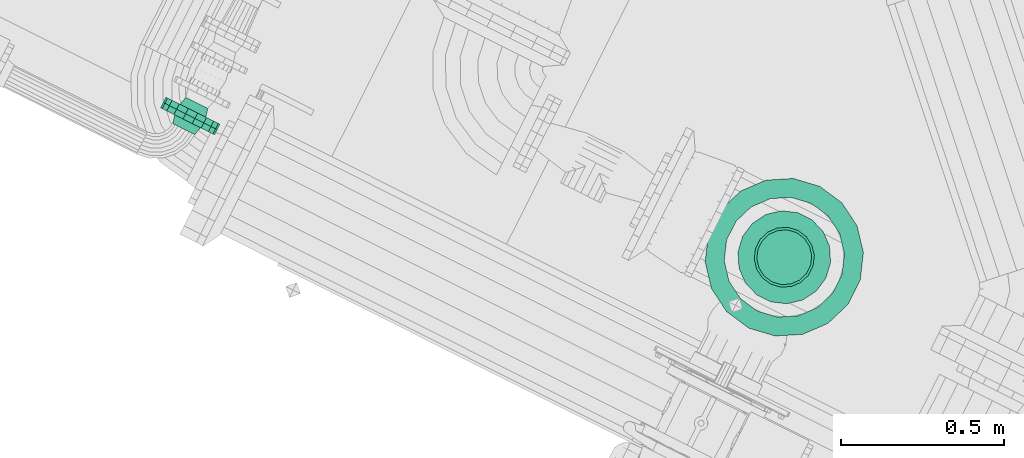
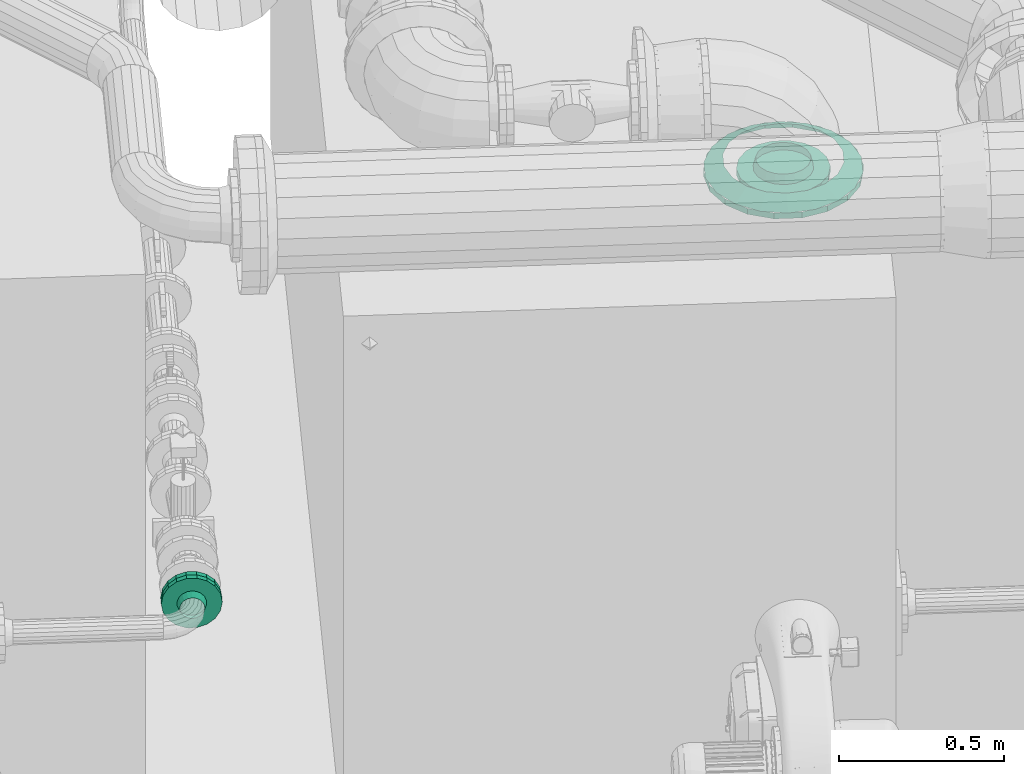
# One storey, part 46 of 206: 3 flow fittings.
"""IFC2X3 building model written with IfcOpenShell, lengths in metres."""

from ifc_helpers import new_model, si_unit, derived_unit, direction, frame, origin, place, context, subcontext, project, spatial, face_set, surface_model, source, transform, mapped, material, type_object, type_shapes, element, save


model = new_model("IFC2X3")

# Units and contexts
model_context = context("Model", 3, precision=5.2338327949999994e-05, world=origin(), true_north=direction((0.0, 1.0)))
body_context = subcontext(model_context, "Body", "Model", "MODEL_VIEW")
ifc_project = project(units=[si_unit("LENGTHUNIT", "METRE"), si_unit("AREAUNIT", "SQUARE_METRE"), si_unit("VOLUMEUNIT", "CUBIC_METRE"), si_unit("MASSUNIT", "GRAM", prefix="KILO"), si_unit("PLANEANGLEUNIT", "RADIAN"), derived_unit("THERMALTRANSMITTANCEUNIT", [(si_unit("MASSUNIT", "GRAM", prefix="KILO"), 1), (si_unit("THERMODYNAMICTEMPERATUREUNIT", "KELVIN"), -1), (si_unit("TIMEUNIT", "SECOND"), -3)])], contexts=[model_context])

# Site, building, storey
site_placement = place(None, frame((0.0, 0.0, 0.0), z_axis=(0.0, 0.0, 1.0), x_axis=(0.8939966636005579, -0.4480736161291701, 0.0)))
site = spatial("IfcSite", under=ifc_project, at=site_placement, Name="Default", CompositionType="ELEMENT")
building_placement = place(site_placement, origin())
building = spatial("IfcBuilding", under=site, at=building_placement, CompositionType="ELEMENT")
storey_placement = place(building_placement, origin())
storey = spatial("IfcBuildingStorey", under=building, at=storey_placement, Name="Erdgeschoss", CompositionType="ELEMENT", Elevation=0.0)

# Flow fittings
ifc_material_1 = material(Name="IfcSurfaceStyle #1741")
distribution_element_type_1 = type_object("IfcDistributionElementType", Name="Flansch 317675:Flansch 317675", material=ifc_material_1)
shared_shape_1 = source(origin(), body_context, "Body", "SurfaceModel", [
    surface_model("IfcFaceBasedSurfaceModel", [(24.032321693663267, 5.395961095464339, 2.07), (24.040915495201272, 5.347223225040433, 2.07), (24.040915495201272, 5.347223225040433, 2.0919999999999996), (24.032321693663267, 5.395961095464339, 2.0919999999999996), (24.065660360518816, 5.304363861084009, 2.07), (24.065660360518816, 5.304363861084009, 2.0919999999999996), (24.103571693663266, 5.272552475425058, 2.07), (24.103571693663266, 5.272552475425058, 2.0919999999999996), (24.15007682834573, 5.255625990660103, 2.07), (24.15007682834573, 5.255625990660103, 2.0919999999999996), (24.199566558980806, 5.255625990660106, 2.07), (24.199566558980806, 5.255625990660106, 2.0919999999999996), (24.246071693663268, 5.272552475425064, 2.07), (24.246071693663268, 5.272552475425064, 2.0919999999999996), (24.283983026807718, 5.304363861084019, 2.07), (24.283983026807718, 5.304363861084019, 2.0919999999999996), (24.30872789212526, 5.347223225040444, 2.07), (24.30872789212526, 5.347223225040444, 2.0919999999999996), (24.31732169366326, 5.395961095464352, 2.07), (24.31732169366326, 5.395961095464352, 2.0919999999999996), (24.30872789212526, 5.444698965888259, 2.07), (24.30872789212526, 5.444698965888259, 2.0919999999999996), (24.283983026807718, 5.487558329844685, 2.07), (24.283983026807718, 5.487558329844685, 2.0919999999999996), (24.246071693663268, 5.519369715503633, 2.07), (24.246071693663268, 5.519369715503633, 2.0919999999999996), (24.199566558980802, 5.536296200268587, 2.07), (24.199566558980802, 5.536296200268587, 2.0919999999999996), (24.15007682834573, 5.536296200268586, 2.07), (24.15007682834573, 5.536296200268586, 2.0919999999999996), (24.103571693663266, 5.519369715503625, 2.07), (24.103571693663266, 5.519369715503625, 2.0919999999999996), (24.065660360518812, 5.487558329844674, 2.07), (24.065660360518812, 5.487558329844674, 2.0919999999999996), (24.04091549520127, 5.444698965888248, 2.07), (24.04091549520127, 5.444698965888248, 2.0919999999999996), (24.17482169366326, 5.3959610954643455, 2.091999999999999), (24.17482169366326, 5.303961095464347, 2.0919999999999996), (24.206287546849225, 5.309509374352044, 2.0919999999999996), (24.20360268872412, 5.316885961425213, 2.125), (24.17482169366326, 5.311811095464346, 2.125), (24.23395815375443, 5.325485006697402, 2.0919999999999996), (24.228912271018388, 5.331498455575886, 2.125), (24.254496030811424, 5.3499610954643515, 2.0919999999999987), (24.247697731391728, 5.35388609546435, 2.124999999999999), (24.265424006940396, 5.37998546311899, 2.0920000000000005), (24.257693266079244, 5.381348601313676, 2.125000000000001), (24.265424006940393, 5.411936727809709, 2.091999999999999), (24.257693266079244, 5.410573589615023, 2.1249999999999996), (24.25449603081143, 5.44196109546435, 2.0919999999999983), (24.247697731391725, 5.438036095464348, 2.1249999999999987), (24.233958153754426, 5.466437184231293, 2.0919999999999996), (24.228912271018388, 5.460423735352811, 2.125), (24.206287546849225, 5.482412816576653, 2.0919999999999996), (24.20360268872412, 5.475036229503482, 2.125), (24.17482169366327, 5.487961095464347, 2.0919999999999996), (24.17482169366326, 5.480111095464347, 2.125), (24.143355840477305, 5.482412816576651, 2.0919999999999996), (24.14604069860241, 5.4750362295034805, 2.125), (24.1156852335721, 5.466437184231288, 2.0919999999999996), (24.120731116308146, 5.460423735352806, 2.125), (24.095147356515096, 5.441961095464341, 2.0919999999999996), (24.101945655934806, 5.438036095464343, 2.125), (24.084219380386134, 5.4119367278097, 2.0919999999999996), (24.091950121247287, 5.410573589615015, 2.125), (24.084219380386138, 5.379985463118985, 2.091999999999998), (24.091950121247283, 5.38134860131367, 2.1249999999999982), (24.095147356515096, 5.349961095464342, 2.0919999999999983), (24.101945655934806, 5.353886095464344, 2.1249999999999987), (24.1156852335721, 5.325485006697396, 2.0920000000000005), (24.120731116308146, 5.331498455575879, 2.125000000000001), (24.143355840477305, 5.309509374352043, 2.091999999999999), (24.146040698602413, 5.316885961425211, 2.1249999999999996), (23.932321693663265, 5.395961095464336, 2.07), (23.94694623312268, 5.313021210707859, 2.07), (23.94694623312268, 5.313021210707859, 2.0919999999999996), (23.932321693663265, 5.395961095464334, 2.0919999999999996), (23.989055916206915, 5.24008510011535, 2.07), (23.989055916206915, 5.24008510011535, 2.0919999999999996), (24.05357169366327, 5.185949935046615, 2.07), (24.05357169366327, 5.185949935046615, 2.0919999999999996), (24.132712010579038, 5.1571452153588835, 2.07), (24.132712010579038, 5.1571452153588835, 2.0919999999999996), (24.216931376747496, 5.157145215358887, 2.07), (24.216931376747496, 5.157145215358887, 2.0919999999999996), (24.29607169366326, 5.185949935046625, 2.07), (24.29607169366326, 5.185949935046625, 2.0919999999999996), (24.36058747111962, 5.240085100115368, 2.07), (24.36058747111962, 5.240085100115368, 2.0919999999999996), (24.40269715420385, 5.313021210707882, 2.07), (24.40269715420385, 5.313021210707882, 2.0919999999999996), (24.417321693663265, 5.395961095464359, 2.07), (24.417321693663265, 5.395961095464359, 2.0919999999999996), (24.40269715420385, 5.478900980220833, 2.07), (24.40269715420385, 5.478900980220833, 2.0919999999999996), (24.36058747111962, 5.5518370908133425, 2.07), (24.36058747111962, 5.5518370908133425, 2.0919999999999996), (24.29607169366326, 5.60597225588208, 2.07), (24.29607169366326, 5.60597225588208, 2.0919999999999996), (24.216931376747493, 5.63477697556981, 2.07), (24.216931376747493, 5.63477697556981, 2.0919999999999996), (24.132712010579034, 5.634776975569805, 2.07), (24.132712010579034, 5.634776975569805, 2.0919999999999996), (24.053571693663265, 5.60597225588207, 2.07), (24.053571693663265, 5.60597225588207, 2.0919999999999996), (23.98905591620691, 5.551837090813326, 2.07), (23.98905591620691, 5.551837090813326, 2.0919999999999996), (23.94694623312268, 5.47890098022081, 2.07), (23.94694623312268, 5.47890098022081, 2.0919999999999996), (24.17482169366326, 5.153461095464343, 2.0920000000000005), (24.257761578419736, 5.168085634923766, 2.0920000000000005), (24.23780470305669, 5.222916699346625, 2.125000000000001), (24.17482169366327, 5.211811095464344, 2.1249999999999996), (24.33069768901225, 5.210195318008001, 2.0919999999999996), (24.29319103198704, 5.254894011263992, 2.125), (24.38483285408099, 5.274711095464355, 2.092), (24.334300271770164, 5.303886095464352, 2.1250000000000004), (24.413637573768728, 5.353851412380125, 2.092), (24.356174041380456, 5.363983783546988, 2.1250000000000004), (24.41363757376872, 5.438070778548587, 2.0919999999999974), (24.356174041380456, 5.4279384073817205, 2.124999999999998), (24.38483285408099, 5.517211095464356, 2.092), (24.334300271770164, 5.488036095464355, 2.1250000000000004), (24.33069768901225, 5.581726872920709, 2.092), (24.29319103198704, 5.537028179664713, 2.1250000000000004), (24.257761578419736, 5.6238365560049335, 2.0919999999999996), (24.237804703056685, 5.5690054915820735, 2.125), (24.17482169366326, 5.638461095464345, 2.0919999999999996), (24.17482169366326, 5.580111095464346, 2.125), (24.091881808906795, 5.623836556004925, 2.0919999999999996), (24.111838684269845, 5.569005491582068, 2.125), (24.01894569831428, 5.581726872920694, 2.0919999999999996), (24.056452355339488, 5.537028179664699, 2.125), (23.96481053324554, 5.517211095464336, 2.091999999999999), (24.015343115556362, 5.48803609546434, 2.1249999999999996), (23.936005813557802, 5.438070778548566, 2.091999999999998), (23.993469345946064, 5.427938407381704, 2.1249999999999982), (23.936005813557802, 5.353851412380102, 2.0919999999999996), (23.993469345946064, 5.36398378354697, 2.125), (23.96481053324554, 5.274711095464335, 2.091999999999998), (24.015343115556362, 5.303886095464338, 2.1249999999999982), (24.018945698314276, 5.210195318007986, 2.0919999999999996), (24.05645235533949, 5.254894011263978, 2.125), (24.091881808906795, 5.168085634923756, 2.0919999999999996), (24.111838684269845, 5.222916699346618, 2.125)], [face_set([[[0, 1, 2, 3]], [[1, 4, 5, 2]], [[4, 6, 7, 5]], [[6, 8, 9, 7]], [[8, 10, 11, 9]], [[10, 12, 13, 11]], [[12, 14, 15, 13]], [[14, 16, 17, 15]], [[16, 18, 19, 17]], [[18, 20, 21, 19]], [[20, 22, 23, 21]], [[22, 24, 25, 23]], [[24, 26, 27, 25]], [[26, 28, 29, 27]], [[28, 30, 31, 29]], [[30, 32, 33, 31]], [[32, 34, 35, 33]], [[34, 0, 3, 35]], [[36, 35, 3]], [[36, 33, 35]], [[36, 31, 33]], [[36, 29, 31]], [[36, 27, 29]], [[36, 25, 27]], [[36, 23, 25]], [[36, 21, 23]], [[36, 19, 21]], [[36, 17, 19]], [[36, 15, 17]], [[36, 13, 15]], [[36, 11, 13]], [[36, 9, 11]], [[36, 7, 9]], [[36, 5, 7]], [[36, 2, 5]], [[36, 3, 2]], [[37, 38, 39, 40]], [[38, 41, 42, 39]], [[41, 43, 44, 42]], [[43, 45, 46, 44]], [[45, 47, 48, 46]], [[47, 49, 50, 48]], [[49, 51, 52, 50]], [[51, 53, 54, 52]], [[53, 55, 56, 54]], [[55, 57, 58, 56]], [[57, 59, 60, 58]], [[59, 61, 62, 60]], [[61, 63, 64, 62]], [[63, 65, 66, 64]], [[65, 67, 68, 66]], [[67, 69, 70, 68]], [[69, 71, 72, 70]], [[71, 37, 40, 72]], [[73, 74, 75, 76]], [[74, 77, 78, 75]], [[77, 79, 80, 78]], [[79, 81, 82, 80]], [[81, 83, 84, 82]], [[83, 85, 86, 84]], [[85, 87, 88, 86]], [[87, 89, 90, 88]], [[89, 91, 92, 90]], [[91, 93, 94, 92]], [[93, 95, 96, 94]], [[95, 97, 98, 96]], [[97, 99, 100, 98]], [[99, 101, 102, 100]], [[101, 103, 104, 102]], [[103, 105, 106, 104]], [[105, 107, 108, 106]], [[107, 73, 76, 108]], [[109, 110, 111, 112]], [[110, 113, 114, 111]], [[113, 115, 116, 114]], [[115, 117, 118, 116]], [[117, 119, 120, 118]], [[119, 121, 122, 120]], [[121, 123, 124, 122]], [[123, 125, 126, 124]], [[125, 127, 128, 126]], [[127, 129, 130, 128]], [[129, 131, 132, 130]], [[131, 133, 134, 132]], [[133, 135, 136, 134]], [[135, 137, 138, 136]], [[137, 139, 140, 138]], [[139, 141, 142, 140]], [[141, 143, 144, 142]], [[143, 109, 112, 144]]])]),
])
type_shapes(distribution_element_type_1, [shared_shape_1])
flow_fitting_1_placement = place(storey_placement, origin())
element("IfcFlowFitting", 1, at=flow_fitting_1_placement, inside=storey, type_object=distribution_element_type_1, material=ifc_material_1, Name="Flansch", ObjectType="Flansch", context=body_context, shape_type="MappedRepresentation", body=[
    mapped(shared_shape_1, transform((0.0, 0.0, 0.0), scale=1.0)),
])
ifc_material_2 = material(Name="IfcSurfaceStyle #352577")
distribution_element_type_2 = type_object("IfcDistributionElementType", Name="Flansch 357862:Flansch 357862", material=ifc_material_2)
shared_shape_2 = source(origin(), body_context, "Body", "SurfaceModel", [
    surface_model("IfcFaceBasedSurfaceModel", [(22.356766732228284, 4.92295839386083, 0.9080499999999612), (22.36978059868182, 4.922958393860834, 0.9057553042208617), (22.372157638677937, 4.9499583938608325, 0.9122861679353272), (22.35676673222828, 4.949958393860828, 0.9149999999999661), (22.381224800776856, 4.922958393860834, 0.8991479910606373), (22.38569217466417, 4.949958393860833, 0.9044719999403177), (22.38971899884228, 4.922958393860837, 0.8890249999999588), (22.39573787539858, 4.949958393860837, 0.8924999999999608), (22.394238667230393, 4.9229583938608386, 0.876607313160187), (22.401083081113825, 4.949958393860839, 0.8778141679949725), (22.3942386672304, 4.922958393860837, 0.8633926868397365), (22.40108308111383, 4.949958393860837, 0.8621858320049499), (22.38971899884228, 4.922958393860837, 0.85097499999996), (22.39573787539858, 4.949958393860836, 0.8474999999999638), (22.38122480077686, 4.922958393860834, 0.8408520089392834), (22.38569217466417, 4.949958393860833, 0.8355280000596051), (22.369780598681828, 4.922958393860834, 0.834244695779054), (22.372157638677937, 4.949958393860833, 0.827713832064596), (22.356766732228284, 4.922958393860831, 0.8319499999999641), (22.356766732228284, 4.949958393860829, 0.8249999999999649), (22.34375286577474, 4.922958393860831, 0.8342446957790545), (22.341375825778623, 4.949958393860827, 0.8277138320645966), (22.33230866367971, 4.922958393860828, 0.8408520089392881), (22.327841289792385, 4.949958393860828, 0.8355280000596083), (22.323814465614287, 4.922958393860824, 0.8509749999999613), (22.317795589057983, 4.949958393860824, 0.8474999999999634), (22.31929479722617, 4.922958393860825, 0.8633926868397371), (22.312450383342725, 4.949958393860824, 0.862185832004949), (22.319294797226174, 4.922958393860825, 0.8766073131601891), (22.31245038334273, 4.949958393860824, 0.8778141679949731), (22.323814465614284, 4.922958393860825, 0.8890249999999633), (22.317795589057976, 4.949958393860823, 0.8924999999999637), (22.33230866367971, 4.922958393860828, 0.8991479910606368), (22.327841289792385, 4.9499583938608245, 0.9044719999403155), (22.343752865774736, 4.922958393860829, 0.9057553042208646), (22.341375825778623, 4.949958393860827, 0.9122861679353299), (22.26426673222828, 4.9499583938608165, 0.8699999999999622), (22.269845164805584, 4.949958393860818, 0.9016368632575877), (22.269845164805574, 4.967958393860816, 0.9016368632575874), (22.264266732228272, 4.967958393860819, 0.8699999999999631), (22.28590762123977, 4.949958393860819, 0.9294578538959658), (22.285907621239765, 4.96795839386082, 0.9294578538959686), (22.310516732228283, 4.949958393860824, 0.9501073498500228), (22.310516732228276, 4.967958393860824, 0.9501073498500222), (22.34070427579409, 4.949958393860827, 0.9610947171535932), (22.340704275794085, 4.967958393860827, 0.9610947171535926), (22.37282918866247, 4.949958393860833, 0.9610947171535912), (22.372829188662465, 4.967958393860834, 0.9610947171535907), (22.403016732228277, 4.949958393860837, 0.9501073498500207), (22.403016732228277, 4.967958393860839, 0.95010734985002), (22.427625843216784, 4.949958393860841, 0.9294578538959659), (22.427625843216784, 4.96795839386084, 0.9294578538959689), (22.443688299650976, 4.949958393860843, 0.9016368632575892), (22.443688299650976, 4.967958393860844, 0.901636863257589), (22.449266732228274, 4.949958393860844, 0.8699999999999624), (22.449266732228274, 4.967958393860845, 0.8699999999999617), (22.443688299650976, 4.949958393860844, 0.8383631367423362), (22.44368829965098, 4.967958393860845, 0.838363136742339), (22.427625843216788, 4.94995839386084, 0.810542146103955), (22.42762584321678, 4.96795839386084, 0.810542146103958), (22.403016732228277, 4.949958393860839, 0.7898926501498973), (22.403016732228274, 4.967958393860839, 0.7898926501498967), (22.372829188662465, 4.9499583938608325, 0.7789052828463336), (22.372829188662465, 4.967958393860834, 0.7789052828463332), (22.34070427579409, 4.949958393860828, 0.7789052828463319), (22.34070427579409, 4.96795839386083, 0.7789052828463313), (22.310516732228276, 4.949958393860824, 0.7898926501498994), (22.310516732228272, 4.967958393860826, 0.7898926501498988), (22.285907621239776, 4.949958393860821, 0.8105421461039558), (22.28590762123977, 4.967958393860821, 0.8105421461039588), (22.269845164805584, 4.949958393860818, 0.8383631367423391), (22.269845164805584, 4.967958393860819, 0.8383631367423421), (22.356766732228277, 4.949958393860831, 0.8699999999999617)], [face_set([[[0, 1, 2, 3]], [[1, 4, 5, 2]], [[4, 6, 7, 5]], [[6, 8, 9, 7]], [[8, 10, 11, 9]], [[10, 12, 13, 11]], [[12, 14, 15, 13]], [[14, 16, 17, 15]], [[16, 18, 19, 17]], [[18, 20, 21, 19]], [[20, 22, 23, 21]], [[22, 24, 25, 23]], [[24, 26, 27, 25]], [[26, 28, 29, 27]], [[28, 30, 31, 29]], [[30, 32, 33, 31]], [[32, 34, 35, 33]], [[34, 0, 3, 35]], [[36, 37, 38, 39]], [[37, 40, 41, 38]], [[40, 42, 43, 41]], [[42, 44, 45, 43]], [[44, 46, 47, 45]], [[46, 48, 49, 47]], [[48, 50, 51, 49]], [[50, 52, 53, 51]], [[52, 54, 55, 53]], [[54, 56, 57, 55]], [[56, 58, 59, 57]], [[58, 60, 61, 59]], [[60, 62, 63, 61]], [[62, 64, 65, 63]], [[64, 66, 67, 65]], [[66, 68, 69, 67]], [[68, 70, 71, 69]], [[70, 36, 39, 71]], [[72, 37, 36]], [[72, 40, 37]], [[72, 42, 40]], [[72, 44, 42]], [[72, 46, 44]], [[72, 48, 46]], [[72, 50, 48]], [[72, 52, 50]], [[72, 54, 52]], [[72, 56, 54]], [[72, 58, 56]], [[72, 60, 58]], [[72, 62, 60]], [[72, 64, 62]], [[72, 66, 64]], [[72, 68, 66]], [[72, 70, 68]], [[72, 36, 70]]])]),
])
type_shapes(distribution_element_type_2, [shared_shape_2])
flow_fitting_2_placement = place(storey_placement, origin())
element("IfcFlowFitting", 2, at=flow_fitting_2_placement, inside=storey, type_object=distribution_element_type_2, material=ifc_material_2, Name="Flansch", ObjectType="Flansch", context=body_context, shape_type="MappedRepresentation", body=[
    mapped(shared_shape_2, transform((0.0, 0.0, 0.0), scale=1.0)),
])
distribution_element_type_3 = type_object("IfcDistributionElementType", Name="Flansch 357973:Flansch 357973", material=ifc_material_2)
shared_shape_3 = source(origin(), body_context, "Body", "SurfaceModel", [
    surface_model("IfcFaceBasedSurfaceModel", [(22.356766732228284, 5.012958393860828, 0.8319499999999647), (22.36978059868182, 5.012958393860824, 0.834244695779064), (22.372157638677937, 4.985958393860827, 0.8277138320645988), (22.35676673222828, 4.985958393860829, 0.8249999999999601), (22.381224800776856, 5.012958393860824, 0.8408520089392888), (22.38569217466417, 4.985958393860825, 0.8355280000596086), (22.38971899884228, 5.012958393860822, 0.8509749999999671), (22.39573787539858, 4.985958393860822, 0.8474999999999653), (22.394238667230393, 5.012958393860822, 0.8633926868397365), (22.401083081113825, 4.985958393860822, 0.8621858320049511), (22.3942386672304, 5.012958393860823, 0.8766073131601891), (22.40108308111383, 4.985958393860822, 0.8778141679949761), (22.38971899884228, 5.012958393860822, 0.8890249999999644), (22.395737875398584, 4.985958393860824, 0.8924999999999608), (22.38122480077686, 5.012958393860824, 0.8991479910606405), (22.38569217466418, 4.985958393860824, 0.9044719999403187), (22.369780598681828, 5.012958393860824, 0.9057553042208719), (22.372157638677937, 4.985958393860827, 0.91228616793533), (22.356766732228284, 5.012958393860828, 0.908049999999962), (22.356766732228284, 4.9859583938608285, 0.9149999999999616), (22.34375286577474, 5.01295839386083, 0.9057553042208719), (22.341375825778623, 4.985958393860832, 0.91228616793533), (22.33230866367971, 5.012958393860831, 0.8991479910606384), (22.327841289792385, 4.985958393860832, 0.9044719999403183), (22.323814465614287, 5.012958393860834, 0.8890249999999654), (22.31779558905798, 4.985958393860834, 0.8924999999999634), (22.31929479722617, 5.012958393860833, 0.8766073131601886), (22.312450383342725, 4.985958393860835, 0.8778141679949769), (22.319294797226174, 5.012958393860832, 0.8633926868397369), (22.31245038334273, 4.985958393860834, 0.8621858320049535), (22.323814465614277, 5.012958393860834, 0.8509749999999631), (22.317795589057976, 4.985958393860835, 0.8474999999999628), (22.33230866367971, 5.012958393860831, 0.8408520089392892), (22.327841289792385, 4.985958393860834, 0.8355280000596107), (22.343752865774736, 5.012958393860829, 0.8342446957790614), (22.341375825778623, 4.985958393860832, 0.827713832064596), (22.26426673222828, 4.985958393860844, 0.8699999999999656), (22.269845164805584, 4.985958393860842, 0.8383631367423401), (22.269845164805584, 4.967958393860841, 0.838363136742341), (22.26426673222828, 4.967958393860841, 0.8699999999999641), (22.285907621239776, 4.985958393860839, 0.8105421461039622), (22.285907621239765, 4.9679583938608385, 0.8105421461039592), (22.310516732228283, 4.985958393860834, 0.7898926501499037), (22.310516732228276, 4.967958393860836, 0.7898926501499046), (22.34070427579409, 4.985958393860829, 0.7789052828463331), (22.340704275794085, 4.967958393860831, 0.778905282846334), (22.37282918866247, 4.985958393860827, 0.7789052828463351), (22.372829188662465, 4.967958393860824, 0.7789052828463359), (22.403016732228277, 4.985958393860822, 0.7898926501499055), (22.403016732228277, 4.96795839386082, 0.7898926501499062), (22.427625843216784, 4.985958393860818, 0.8105421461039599), (22.427625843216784, 4.967958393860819, 0.810542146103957), (22.443688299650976, 4.985958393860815, 0.8383631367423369), (22.443688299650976, 4.967958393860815, 0.8383631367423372), (22.44926673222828, 4.985958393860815, 0.8699999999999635), (22.44926673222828, 4.9679583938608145, 0.8699999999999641), (22.44368829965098, 4.985958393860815, 0.90163686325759), (22.443688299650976, 4.9679583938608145, 0.9016368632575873), (22.427625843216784, 4.985958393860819, 0.9294578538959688), (22.42762584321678, 4.967958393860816, 0.9294578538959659), (22.403016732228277, 4.985958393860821, 0.9501073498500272), (22.403016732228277, 4.967958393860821, 0.9501073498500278), (22.37282918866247, 4.985958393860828, 0.9610947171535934), (22.37282918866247, 4.967958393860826, 0.9610947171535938), (22.34070427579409, 4.985958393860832, 0.9610947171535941), (22.34070427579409, 4.9679583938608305, 0.9610947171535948), (22.310516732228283, 4.985958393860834, 0.9501073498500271), (22.310516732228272, 4.967958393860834, 0.9501073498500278), (22.285907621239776, 4.985958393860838, 0.9294578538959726), (22.28590762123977, 4.9679583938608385, 0.9294578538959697), (22.269845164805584, 4.985958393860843, 0.9016368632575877), (22.269845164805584, 4.96795839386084, 0.9016368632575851), (22.356766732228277, 4.985958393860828, 0.8699999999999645)], [face_set([[[0, 1, 2, 3]], [[1, 4, 5, 2]], [[4, 6, 7, 5]], [[6, 8, 9, 7]], [[8, 10, 11, 9]], [[10, 12, 13, 11]], [[12, 14, 15, 13]], [[14, 16, 17, 15]], [[16, 18, 19, 17]], [[18, 20, 21, 19]], [[20, 22, 23, 21]], [[22, 24, 25, 23]], [[24, 26, 27, 25]], [[26, 28, 29, 27]], [[28, 30, 31, 29]], [[30, 32, 33, 31]], [[32, 34, 35, 33]], [[34, 0, 3, 35]], [[36, 37, 38, 39]], [[37, 40, 41, 38]], [[40, 42, 43, 41]], [[42, 44, 45, 43]], [[44, 46, 47, 45]], [[46, 48, 49, 47]], [[48, 50, 51, 49]], [[50, 52, 53, 51]], [[52, 54, 55, 53]], [[54, 56, 57, 55]], [[56, 58, 59, 57]], [[58, 60, 61, 59]], [[60, 62, 63, 61]], [[62, 64, 65, 63]], [[64, 66, 67, 65]], [[66, 68, 69, 67]], [[68, 70, 71, 69]], [[70, 36, 39, 71]], [[72, 37, 36]], [[72, 40, 37]], [[72, 42, 40]], [[72, 44, 42]], [[72, 46, 44]], [[72, 48, 46]], [[72, 50, 48]], [[72, 52, 50]], [[72, 54, 52]], [[72, 56, 54]], [[72, 58, 56]], [[72, 60, 58]], [[72, 62, 60]], [[72, 64, 62]], [[72, 66, 64]], [[72, 68, 66]], [[72, 70, 68]], [[72, 36, 70]]])]),
])
type_shapes(distribution_element_type_3, [shared_shape_3])
flow_fitting_3_placement = place(storey_placement, origin())
element("IfcFlowFitting", 3, at=flow_fitting_3_placement, inside=storey, type_object=distribution_element_type_3, material=ifc_material_2, Name="Flansch", ObjectType="Flansch", context=body_context, shape_type="MappedRepresentation", body=[
    mapped(shared_shape_3, transform((0.0, 0.0, 0.0), scale=1.0)),
])

save(model, "model.ifc")
